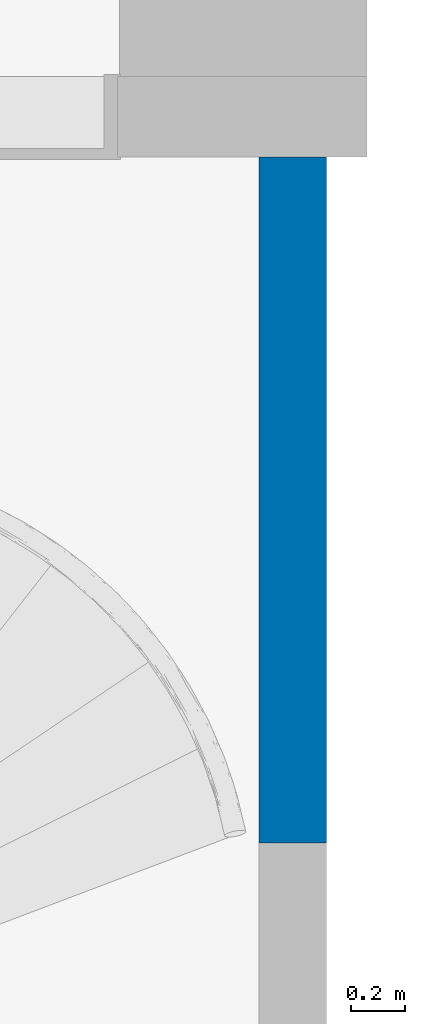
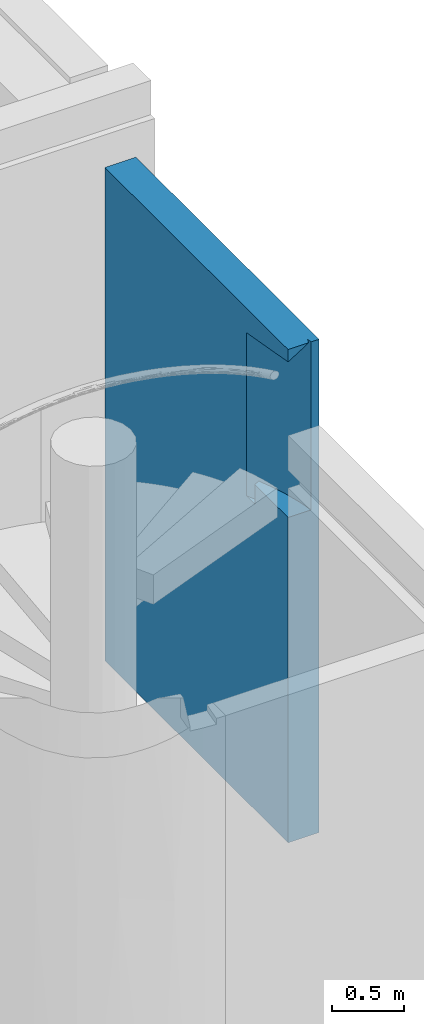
# One storey, part 32 of 39: 1 wall.
"""IFC4 building model written with IfcOpenShell, lengths in metres."""

import ifcopenshell
import ifcopenshell.guid

model = None  # the IFC model being written
_history = None  # IfcOwnerHistory: only IFC2X3 demands one
_inside = {}  # id of a spatial element -> (the spatial element, [elements in it])
_under = {}  # id of a project, library or spatial element -> (it, [spatial elements below it])
_declared = {}  # id of a project -> (the project, [libraries it declares])
_typed = {}  # id of a type object -> (the type object, [elements of that type])
_made_of = {}  # id of a material, layer set ... -> (it, [elements and type objects made of it])


def new_model(schema):
    """Start an empty IFC model of exactly this schema.

    Asked for "IFC4X3", IfcOpenShell would pick the latest addendum, in which some entities
    have other attributes; the version numbers below select the first issue.
    IFC2X3 requires an IfcOwnerHistory on every rooted entity: one is made here for all.
    """
    global model, _history
    if schema == "IFC4X3":
        model = ifcopenshell.file(schema_version=(4, 3, 0, 0))
    else:
        model = ifcopenshell.file(schema=schema)
    _inside.clear()
    _under.clear()
    _declared.clear()
    _typed.clear()
    _made_of.clear()
    _history = None
    if model.schema == "IFC2X3":
        org = make("IfcOrganization", Name="unknown")
        user = make(
            "IfcPersonAndOrganization",
            ThePerson=make("IfcPerson", FamilyName="unknown"),
            TheOrganization=org,
        )
        app = make(
            "IfcApplication",
            ApplicationDeveloper=org,
            Version="unknown",
            ApplicationFullName="unknown",
            ApplicationIdentifier="unknown",
        )
        _history = make(
            "IfcOwnerHistory",
            OwningUser=user,
            OwningApplication=app,
            ChangeAction="ADDED",
            CreationDate=0,
        )
    return model


def make(cls, **values):
    """One entity of the class cls with the attributes given. An attribute that is None is left unset."""
    return model.create_entity(
        cls, **{name: value for name, value in values.items() if value is not None}
    )


def entity(cls, *values):
    """Any entity or typed value of the class cls, its attributes in the order of the schema. None: left unset."""
    e = model.create_entity(cls)
    for i, value in enumerate(values):
        if value is not None:
            e[i] = value
    return e


def rooted(cls, **values):
    """An entity with a GlobalId (a new one), such as an element, a storey or a relation."""
    return make(cls, GlobalId=ifcopenshell.guid.new(), OwnerHistory=_history, **values)


def si_unit(unit_type, name, prefix=None):
    """IfcSIUnit, for example si_unit("LENGTHUNIT", "METRE", prefix="MILLI")."""
    return make("IfcSIUnit", UnitType=unit_type, Prefix=prefix, Name=name)


def converted_unit(unit_type, name, factor, base, dimensions=None, offset=None):
    """IfcConversionBasedUnit, such as the inch: factor (a typed value) times the base unit."""
    return make(
        "IfcConversionBasedUnit"
        if offset is None
        else "IfcConversionBasedUnitWithOffset",
        ConversionOffset=offset,
        Dimensions=None
        if dimensions is None
        else entity("IfcDimensionalExponents", *dimensions),
        UnitType=unit_type,
        Name=name,
        ConversionFactor=make(
            "IfcMeasureWithUnit", ValueComponent=factor, UnitComponent=base
        ),
    )


def derived_unit(unit_type, elements):
    """IfcDerivedUnit: a product of units, each with its exponent."""
    return make(
        "IfcDerivedUnit",
        Elements=[
            make("IfcDerivedUnitElement", Unit=unit, Exponent=power)
            for unit, power in elements
        ],
        UnitType=unit_type,
    )


def assignment(units):
    """IfcUnitAssignment: the units of a project."""
    return None if units is None else make("IfcUnitAssignment", Units=units)


def point(xyz):
    """IfcCartesianPoint."""
    return None if xyz is None else make("IfcCartesianPoint", Coordinates=xyz)


def direction(xyz):
    """IfcDirection."""
    return None if xyz is None else make("IfcDirection", DirectionRatios=xyz)


def frame(location, z_axis=None, x_axis=None):
    """IfcAxis2Placement3D, a coordinate frame: its origin and axes. An axis left out is left unset."""
    return make(
        "IfcAxis2Placement3D",
        Location=point(location),
        Axis=direction(z_axis),
        RefDirection=direction(x_axis),
    )


def origin():
    """The frame at (0, 0, 0) with its axes left unset."""
    return frame((0.0, 0.0, 0.0))


def place(relative_to, where):
    """IfcLocalPlacement: puts the frame where relative to a parent placement (None: the world)."""
    return make(
        "IfcLocalPlacement", PlacementRelTo=relative_to, RelativePlacement=where
    )


def context(
    kind, dimensions, precision=None, world=None, true_north=None, identifier=None
):
    """IfcGeometricRepresentationContext, for example the 3D "Model" context."""
    return make(
        "IfcGeometricRepresentationContext",
        ContextIdentifier=identifier,
        ContextType=kind,
        CoordinateSpaceDimension=dimensions,
        Precision=precision,
        WorldCoordinateSystem=world,
        TrueNorth=true_north,
    )


def subcontext(parent, identifier, kind, view, scale=None):
    """IfcGeometricRepresentationSubContext, for example "Body" below "Model"."""
    return make(
        "IfcGeometricRepresentationSubContext",
        ContextIdentifier=identifier,
        ContextType=kind,
        ParentContext=parent,
        TargetScale=scale,
        TargetView=view,
    )


def project(units=None, contexts=None):
    """IfcProject with its units and contexts."""
    return rooted(
        "IfcProject",
        Name="project",
        RepresentationContexts=contexts,
        UnitsInContext=assignment(units),
    )


def spatial(cls, under=None, at=None, **own):
    """A site, building, storey or space (cls), placed at a placement, below another one or the project."""
    s = rooted(cls, ObjectPlacement=at, **own)
    if under is not None:
        _under.setdefault(under.id(), (under, []))[1].append(s)
    return s


def point_list(points):
    """IfcCartesianPointList2D or 3D."""
    cls = (
        "IfcCartesianPointList2D" if len(points[0]) == 2 else "IfcCartesianPointList3D"
    )
    return make(cls, CoordList=points)


def polygons(points, faces, closed=None, point_numbers=None):
    """IfcPolygonalFaceSet: a face is its outer loop, then its inner loops; points numbered from 1."""
    made = []
    for loops in faces:
        if len(loops) == 1:
            made.append(make("IfcIndexedPolygonalFace", CoordIndex=loops[0]))
        else:
            made.append(
                make(
                    "IfcIndexedPolygonalFaceWithVoids",
                    CoordIndex=loops[0],
                    InnerCoordIndices=loops[1:],
                )
            )
    return make(
        "IfcPolygonalFaceSet",
        Coordinates=point_list(points),
        Closed=closed,
        Faces=made,
        PnIndex=point_numbers,
    )


def shape(context_of_items, identifier, shape_type, items):
    """IfcShapeRepresentation: the items that make up one representation, for example the "Body"."""
    return make(
        "IfcShapeRepresentation",
        ContextOfItems=context_of_items,
        RepresentationIdentifier=identifier,
        RepresentationType=shape_type,
        Items=items,
    )


def material(Name=None, Category=None):
    """IfcMaterial."""
    return make("IfcMaterial", Name=Name, Category=Category)


def layer(
    of_material, thickness, ventilated=None, Name=None, Category=None, Priority=None
):
    """IfcMaterialLayer: one layer of a wall or slab, of a material (None: an air gap)."""
    return make(
        "IfcMaterialLayer",
        Material=of_material,
        LayerThickness=thickness,
        IsVentilated=ventilated,
        Name=Name,
        Category=Category,
        Priority=Priority,
    )


def layer_set(layers, Name=None):
    """IfcMaterialLayerSet."""
    return make("IfcMaterialLayerSet", MaterialLayers=layers, LayerSetName=Name)


def made_of(thing, what):
    """Note that an element or type object is made of a material, layer set ...; save() writes the relation."""
    if what is not None:
        _made_of.setdefault(what.id(), (what, []))[1].append(thing)
    return thing


def type_object(cls, material=None, **own):
    """A type object (cls), such as IfcWallType, which elements share."""
    return made_of(rooted(cls, **own), material)


def element(
    cls,
    number,
    at=None,
    inside=None,
    cuts=None,
    type_object=None,
    material=None,
    context=None,
    identifier="Body",
    shape_type=None,
    held_by="IfcProductDefinitionShape",
    body=None,
    shapes=None,
    **own,
):
    """One element of the class cls, such as IfcWall. Its Tag is "e" and its number.

    at: its placement. inside: the storey or other place that contains it. cuts: it is an
    opening in that element (IfcRelVoidsElement). A single representation is given by context,
    identifier, shape_type and body (its items); several are given by shapes. held_by: the class
    of the entity that holds the representations. save() writes the other relations.
    """
    e = rooted(cls, Tag="e%d" % number, ObjectPlacement=at, **own)
    if body is not None:
        shapes = [shape(context, identifier, shape_type, body)]
    if shapes is not None:
        e.Representation = make(held_by, Representations=shapes)
    if inside is not None:
        _inside.setdefault(inside.id(), (inside, []))[1].append(e)
    if cuts is not None:
        rooted(
            "IfcRelVoidsElement", RelatingBuildingElement=cuts, RelatedOpeningElement=e
        )
    if type_object is not None:
        _typed.setdefault(type_object.id(), (type_object, []))[1].append(e)
    return made_of(e, material)


def aggregate(whole, parts):
    """IfcRelAggregates: a whole, such as a stair, and the parts it consists of."""
    return rooted("IfcRelAggregates", RelatingObject=whole, RelatedObjects=parts)


def save(model, path):
    """Write the relations noted so far, then the file.

    IfcRelAggregates (storeys below a building ...), IfcRelContainedInSpatialStructure (elements
    in a storey), IfcRelDefinesByType, IfcRelAssociatesMaterial and IfcRelDeclares: one each for
    every whole, place, type object, material and project.
    """
    for whole, parts in _under.values():
        aggregate(whole, parts)
    for where, things in _inside.values():
        rooted(
            "IfcRelContainedInSpatialStructure",
            RelatedElements=things,
            RelatingStructure=where,
        )
    for kind, things in _typed.values():
        rooted("IfcRelDefinesByType", RelatedObjects=things, RelatingType=kind)
    for what, things in _made_of.values():
        rooted("IfcRelAssociatesMaterial", RelatedObjects=things, RelatingMaterial=what)
    for by, libraries in _declared.values():
        rooted("IfcRelDeclares", RelatingContext=by, RelatedDefinitions=libraries)
    model.write(path)


model = new_model("IFC4")

# Units and contexts
model_context = context("Model", 3, precision=1e-05, world=origin(), true_north=direction((6.12303176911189e-17, 1.0)))
body_context = subcontext(model_context, "Body", "Model", "MODEL_VIEW")
ifc_project = project(units=[si_unit("LENGTHUNIT", "METRE"), si_unit("AREAUNIT", "SQUARE_METRE"), si_unit("VOLUMEUNIT", "CUBIC_METRE"), converted_unit("PLANEANGLEUNIT", "DEGREE", entity("IfcRatioMeasure", 0.0174532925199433), si_unit("PLANEANGLEUNIT", "RADIAN"), dimensions=[0, 0, 0, 0, 0, 0, 0]), si_unit("MASSUNIT", "GRAM", prefix="KILO"), derived_unit("MASSDENSITYUNIT", [(si_unit("MASSUNIT", "GRAM", prefix="KILO"), 1), (si_unit("LENGTHUNIT", "METRE"), -3)]), derived_unit("MOMENTOFINERTIAUNIT", [(si_unit("LENGTHUNIT", "METRE"), 4)]), si_unit("TIMEUNIT", "SECOND"), si_unit("FREQUENCYUNIT", "HERTZ"), si_unit("THERMODYNAMICTEMPERATUREUNIT", "DEGREE_CELSIUS"), derived_unit("THERMALTRANSMITTANCEUNIT", [(si_unit("MASSUNIT", "GRAM", prefix="KILO"), 1), (si_unit("THERMODYNAMICTEMPERATUREUNIT", "KELVIN"), -1), (si_unit("TIMEUNIT", "SECOND"), -3)]), derived_unit("VOLUMETRICFLOWRATEUNIT", [(si_unit("LENGTHUNIT", "METRE"), 3), (si_unit("TIMEUNIT", "SECOND"), -1)]), si_unit("ELECTRICCURRENTUNIT", "AMPERE"), si_unit("ELECTRICVOLTAGEUNIT", "VOLT"), si_unit("POWERUNIT", "WATT"), si_unit("FORCEUNIT", "NEWTON", prefix="KILO"), si_unit("ILLUMINANCEUNIT", "LUX"), si_unit("LUMINOUSFLUXUNIT", "LUMEN"), si_unit("LUMINOUSINTENSITYUNIT", "CANDELA"), derived_unit("USERDEFINED", [(si_unit("MASSUNIT", "GRAM", prefix="KILO"), -1), (si_unit("LENGTHUNIT", "METRE"), -2), (si_unit("TIMEUNIT", "SECOND"), 3), (si_unit("LUMINOUSFLUXUNIT", "LUMEN"), 1)]), derived_unit("LINEARVELOCITYUNIT", [(si_unit("LENGTHUNIT", "METRE"), 1), (si_unit("TIMEUNIT", "SECOND"), -1)]), si_unit("PRESSUREUNIT", "PASCAL"), derived_unit("USERDEFINED", [(si_unit("LENGTHUNIT", "METRE"), -2), (si_unit("MASSUNIT", "GRAM", prefix="KILO"), 1), (si_unit("TIMEUNIT", "SECOND"), -2)]), derived_unit("LINEARFORCEUNIT", [(si_unit("MASSUNIT", "GRAM", prefix="KILO"), 1), (si_unit("LENGTHUNIT", "METRE"), 1), (si_unit("TIMEUNIT", "SECOND"), -2), (si_unit("LENGTHUNIT", "METRE"), -1)]), derived_unit("PLANARFORCEUNIT", [(si_unit("MASSUNIT", "GRAM", prefix="KILO"), 1), (si_unit("LENGTHUNIT", "METRE"), 1), (si_unit("TIMEUNIT", "SECOND"), -2), (si_unit("LENGTHUNIT", "METRE"), -2)])], contexts=[model_context])

# Site, building, storey
site_placement = place(None, origin())
site = spatial("IfcSite", under=ifc_project, at=site_placement, Name="Default", CompositionType="ELEMENT")
building_placement = place(site_placement, origin())
building = spatial("IfcBuilding", under=site, at=building_placement, Name="HOTEL CONSULAIRE BOULOGNE SUR MER", CompositionType="ELEMENT")
storey_placement = place(building_placement, frame((0.0, 0.0, -5.02343668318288)))
storey = spatial("IfcBuildingStorey", under=building, at=storey_placement, Name="SS3", CompositionType="ELEMENT", Elevation=-5.02343668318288)

# Wall
ifc_material = material(Name="Mur par défaut", Category="Divers")
ifc_layer = layer(ifc_material, 0.25, Name="Mur par défaut", Category="Divers")
ifc_layer_set = layer_set([ifc_layer], Name="Mur de base:Générique - Ext. 250 mm")
wall_type = type_object("IfcWallType", Name="Mur de base:Générique - Ext. 250 mm", PredefinedType="NOTDEFINED", material=ifc_layer_set)
wall_placement = place(storey_placement, frame((22.2632977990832, -29.6180671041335, 0.0), z_axis=(0.0, 0.0, 1.0), x_axis=(0.0, -1.0, 0.0)))
element("IfcWall", 1, at=wall_placement, inside=storey, type_object=wall_type, material=ifc_layer_set, Name="Mur de base:Générique - Ext. 250 mm", ObjectType="Mur de base:Générique - Ext. 250 mm", PredefinedType="NOTDEFINED", context=body_context, shape_type="Tessellation", body=[
    polygons([(2.54975615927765, 0.125000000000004, 0.0), (2.54975615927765, 0.125000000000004, 3.45794677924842), (2.54975615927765, 0.125000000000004, 4.18786455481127), (2.54975615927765, 0.0605777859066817, 4.18786455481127), (2.54975615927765, 0.0605777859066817, 2.76190864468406), (2.54975615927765, -0.124999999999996, 2.76190864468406), (2.54975615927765, -0.124999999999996, 0.0), (4.33146851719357e-15, -0.124999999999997, 0.0), (2.08667435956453, -0.124999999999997, 2.76190864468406), (2.08667435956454, -0.124999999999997, 2.59458038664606), (1.96911942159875, -0.124999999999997, 2.59458038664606), (1.96911942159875, -0.124999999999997, 3.98100609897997), (2.02796415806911, -0.124999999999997, 3.99098643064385), (2.08667435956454, -0.124999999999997, 4.00103426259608), (2.31931952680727, -0.124999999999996, 4.04174922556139), (2.54975615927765, -0.124999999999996, 4.08352400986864), (2.54975615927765, -0.124999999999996, 4.18786455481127), (0.0, -0.124999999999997, 4.18786455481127), (4.33146851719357e-15, 0.125000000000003, 0.0), (4.33146851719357e-15, 0.125000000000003, 4.18786455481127), (2.54975615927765, -0.041513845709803, 4.1349501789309), (2.54975615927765, 0.0409491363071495, 4.18786455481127), (2.50795646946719, 0.0537285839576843, 4.18786455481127), (2.52883760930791, 0.0572673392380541, 4.18786455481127), (2.06431142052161, -0.0801771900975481, 2.59458038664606), (2.01639721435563, -0.101949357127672, 2.59458038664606), (2.06431142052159, -0.0801771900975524, 2.76190864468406), (2.06431142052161, -0.0801771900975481, 4.02259837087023), (2.01637344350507, -0.101960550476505, 4.00190409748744), (1.96911942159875, -0.124999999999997, 3.363307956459), (2.06431142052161, -0.0801771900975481, 3.3922536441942), (2.0176688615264, -0.101351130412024, 3.07491991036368), (1.96911942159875, -0.124999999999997, 2.9789444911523), (2.01601789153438, -0.102128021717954, 3.45782101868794), (2.07547930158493, -0.102561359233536, 4.01177818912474), (2.42520103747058, 0.0373754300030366, 2.76190864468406), (2.30242731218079, 0.00608741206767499, 2.76190864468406), (2.1819592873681, -0.0331526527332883, 2.76190864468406), (2.44204007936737, 0.0410069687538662, 4.16651255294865), (2.37688880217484, 0.0260814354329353, 4.14425446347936), (2.31255604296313, 0.00899442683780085, 4.12118545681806), (2.24908929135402, -0.0102132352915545, 4.09739759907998), (2.18653239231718, -0.0315023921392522, 4.07298007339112), (2.12492635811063, -0.0548357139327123, 4.04801907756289), (2.2029969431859, -0.124999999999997, 4.02139174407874)], [[[7, 1, 2, 3, 4, 5, 6]], [[17, 16, 21, 22]], [[11, 33, 30, 12, 13, 14, 45, 15, 16, 17, 18, 8, 7, 6, 9, 10]], [[2, 1, 19, 20, 3]], [[7, 8, 19, 1]], [[17, 22, 23, 24, 4, 3, 20, 18]], [[26, 11, 10, 25]], [[36, 37, 38, 27, 9, 6, 5]], [[19, 8, 18, 20]], [[10, 9, 27, 25]], [[34, 32, 31]], [[29, 34, 28]], [[32, 30, 33]], [[25, 27, 26]], [[12, 34, 29]], [[32, 27, 31]], [[32, 33, 26]], [[32, 26, 27]], [[30, 32, 34]], [[30, 34, 12]], [[11, 26, 33]], [[28, 34, 31]], [[13, 35, 14]], [[29, 13, 12]], [[29, 28, 35]], [[29, 35, 13]], [[36, 5, 39]], [[41, 36, 40]], [[40, 36, 39]], [[24, 5, 4]], [[5, 24, 23]], [[5, 23, 39]], [[38, 37, 42]], [[44, 27, 38]], [[44, 28, 31, 27]], [[42, 37, 41]], [[43, 38, 42]], [[43, 44, 38]], [[36, 41, 37]], [[45, 35, 44]], [[44, 35, 28]], [[45, 43, 15]], [[45, 14, 35]], [[15, 41, 16]], [[42, 15, 43]], [[41, 40, 16]], [[16, 40, 21]], [[21, 39, 23]], [[39, 21, 40]], [[23, 22, 21]], [[43, 45, 44]], [[41, 15, 42]]], closed=True),
])

save(model, "model.ifc")
